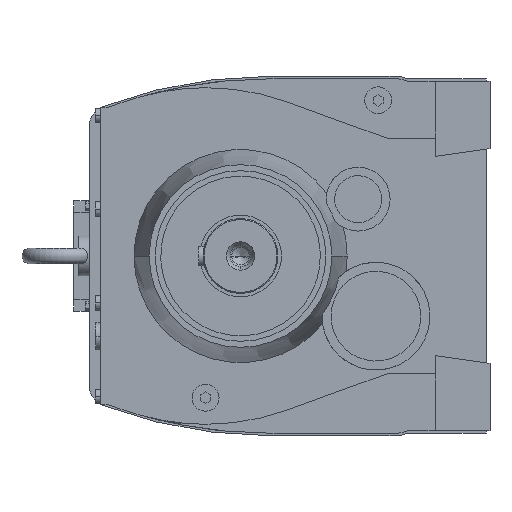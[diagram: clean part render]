
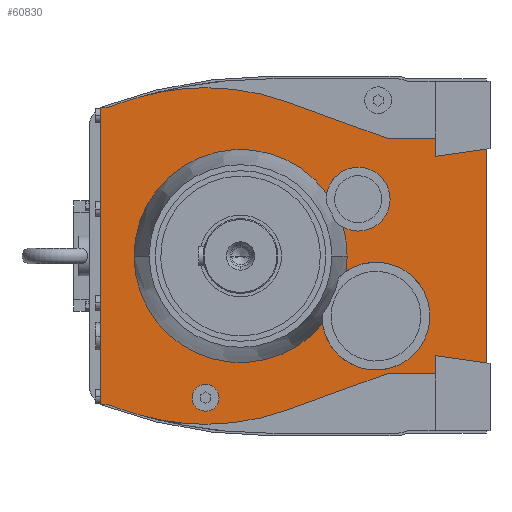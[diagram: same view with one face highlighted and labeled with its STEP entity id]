
A CAD part, left-side view. The second image highlights one B-rep face of the part: STEP entity #60830.
In plain terms, the highlighted planar face has unit normal (-1, 0, 0).
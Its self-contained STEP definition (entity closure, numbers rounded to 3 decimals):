
#10880=CARTESIAN_POINT('',(99.,106.752,0.));
#10890=VERTEX_POINT('',#10880);
#10920=CARTESIAN_POINT('',(99.,0.,0.));
#10930=DIRECTION('',(1.,0.,0.));
#10940=DIRECTION('',(0.,-1.,0.));
#10950=AXIS2_PLACEMENT_3D('',#10920,#10930,#10940);
#10960=CIRCLE('',#10950,106.752);
#10970=CARTESIAN_POINT('',(99.,-86.409,62.686));
#10980=VERTEX_POINT('',#10970);
#10990=EDGE_CURVE('',#10890,#10980,#10960,.T.);
#12810=CARTESIAN_POINT('',(99.,-102.81,28.741));
#12820=VERTEX_POINT('',#12810);
#12850=CARTESIAN_POINT('',(99.,0.,0.));
#12860=DIRECTION('',(1.,0.,0.));
#12870=DIRECTION('',(0.,-1.,0.));
#12880=AXIS2_PLACEMENT_3D('',#12850,#12860,#12870);
#12890=CIRCLE('',#12880,106.752);
#12900=CARTESIAN_POINT('',(99.,-106.752,0.));
#12910=VERTEX_POINT('',#12900);
#12920=EDGE_CURVE('',#12820,#12910,#12890,.T.);
#18500=CARTESIAN_POINT('',(99.,-246.,-107.086));
#18510=VERTEX_POINT('',#18500);
#19070=CARTESIAN_POINT('',(99.,-195.,-99.919));
#19080=VERTEX_POINT('',#19070);
#19110=CARTESIAN_POINT('',(99.,0.,-72.513));
#19120=DIRECTION('',(0.,-0.99,-0.139));
#19130=VECTOR('',#19120,1.);
#19140=LINE('',#19110,#19130);
#19150=EDGE_CURVE('',#19080,#18510,#19140,.T.);
#19800=CARTESIAN_POINT('',(99.,-246.,0.));
#19810=DIRECTION('',(0.,0.,-1.));
#19820=VECTOR('',#19810,1.);
#19830=LINE('',#19800,#19820);
#19840=CARTESIAN_POINT('',(99.,-246.,107.086));
#19850=VERTEX_POINT('',#19840);
#19860=EDGE_CURVE('',#19850,#18510,#19830,.T.);
#23890=CARTESIAN_POINT('',(99.,34.672,168.654));
#23900=VERTEX_POINT('',#23890);
#23930=CARTESIAN_POINT('',(99.,34.672,-71.346));
#23940=DIRECTION('',(-1.,0.,0.));
#23950=DIRECTION('',(0.,0.,1.));
#23960=AXIS2_PLACEMENT_3D('',#23930,#23940,#23950);
#23970=CIRCLE('',#23960,240.);
#23980=CARTESIAN_POINT('',(99.,100.591,159.424));
#23990=VERTEX_POINT('',#23980);
#24000=EDGE_CURVE('',#23900,#23990,#23970,.T.);
#29410=CARTESIAN_POINT('',(99.,140.5,-149.));
#29420=VERTEX_POINT('',#29410);
#29590=CARTESIAN_POINT('',(99.,140.5,149.));
#29600=VERTEX_POINT('',#29590);
#29630=CARTESIAN_POINT('',(99.,140.5,0.));
#29640=DIRECTION('',(0.,0.,1.));
#29650=VECTOR('',#29640,1.);
#29660=LINE('',#29630,#29650);
#29670=EDGE_CURVE('',#29420,#29600,#29660,.T.);
#32210=CARTESIAN_POINT('',(99.,0.,-149.));
#32220=DIRECTION('',(0.,1.,0.));
#32230=VECTOR('',#32220,1.);
#32240=LINE('',#32210,#32230);
#32250=CARTESIAN_POINT('',(99.,132.5,-149.));
#32260=VERTEX_POINT('',#32250);
#32270=EDGE_CURVE('',#32260,#29420,#32240,.T.);
#34790=CARTESIAN_POINT('',(99.,-195.,-118.));
#34800=VERTEX_POINT('',#34790);
#34950=CARTESIAN_POINT('',(99.,-146.818,-118.));
#34960=VERTEX_POINT('',#34950);
#34990=CARTESIAN_POINT('',(99.,0.,-118.));
#35000=DIRECTION('',(0.,-1.,0.));
#35010=VECTOR('',#35000,1.);
#35020=LINE('',#34990,#35010);
#35030=EDGE_CURVE('',#34960,#34800,#35020,.T.);
#37060=CARTESIAN_POINT('',(99.,-195.,0.));
#37070=DIRECTION('',(0.,0.,-1.));
#37080=VECTOR('',#37070,1.);
#37090=LINE('',#37060,#37080);
#37100=EDGE_CURVE('',#19080,#34800,#37090,.T.);
#37550=CARTESIAN_POINT('',(99.,34.672,-168.654));
#37560=VERTEX_POINT('',#37550);
#37590=CARTESIAN_POINT('',(99.,34.672,71.346));
#37600=DIRECTION('',(1.,0.,0.));
#37610=DIRECTION('',(0.,0.,-1.));
#37620=AXIS2_PLACEMENT_3D('',#37590,#37600,#37610);
#37630=CIRCLE('',#37620,240.);
#37640=CARTESIAN_POINT('',(99.,-47.412,-154.181));
#37650=VERTEX_POINT('',#37640);
#37660=EDGE_CURVE('',#37650,#37560,#37630,.T.);
#39890=CARTESIAN_POINT('',(99.,0.,72.513));
#39900=DIRECTION('',(0.,0.99,-0.139));
#39910=VECTOR('',#39900,1.);
#39920=LINE('',#39890,#39910);
#39930=CARTESIAN_POINT('',(99.,-195.,99.919));
#39940=VERTEX_POINT('',#39930);
#39950=EDGE_CURVE('',#19850,#39940,#39920,.T.);
#43040=CARTESIAN_POINT('',(99.,132.5,-149.064));
#43050=VERTEX_POINT('',#43040);
#43080=CARTESIAN_POINT('',(99.,-28.5,292.5));
#43090=DIRECTION('',(-1.,0.,0.));
#43100=DIRECTION('',(0.,1.,0.));
#43110=AXIS2_PLACEMENT_3D('',#43080,#43090,#43100);
#43120=CIRCLE('',#43110,470.);
#43130=CARTESIAN_POINT('',(99.,100.591,-159.424));
#43140=VERTEX_POINT('',#43130);
#43150=EDGE_CURVE('',#43050,#43140,#43120,.T.);
#47310=CARTESIAN_POINT('',(99.,-117.893,56.964));
#47320=DIRECTION('',(1.,0.,0.));
#47330=DIRECTION('',(0.,0.15,0.989));
#47340=AXIS2_PLACEMENT_3D('',#47310,#47320,#47330);
#47350=CIRCLE('',#47340,32.);
#47360=CARTESIAN_POINT('',(99.,-113.086,88.601));
#47370=VERTEX_POINT('',#47360);
#47380=EDGE_CURVE('',#10980,#47370,#47350,.T.);
#47830=CARTESIAN_POINT('',(99.,132.5,149.064));
#47840=VERTEX_POINT('',#47830);
#47870=CARTESIAN_POINT('',(99.,132.5,0.));
#47880=DIRECTION('',(0.,0.,1.));
#47890=VECTOR('',#47880,1.);
#47900=LINE('',#47870,#47890);
#47910=CARTESIAN_POINT('',(99.,132.5,149.));
#47920=VERTEX_POINT('',#47910);
#47930=EDGE_CURVE('',#47920,#47840,#47900,.T.);
#48030=EDGE_CURVE('',#43050,#32260,#47900,.T.);
#48140=CARTESIAN_POINT('',(99.,0.,171.437));
#48150=DIRECTION('',(0.,-0.94,-0.342));
#48160=VECTOR('',#48150,1.);
#48170=LINE('',#48140,#48160);
#48180=CARTESIAN_POINT('',(99.,-47.412,154.181));
#48190=VERTEX_POINT('',#48180);
#48200=CARTESIAN_POINT('',(99.,-146.818,118.));
#48210=VERTEX_POINT('',#48200);
#48220=EDGE_CURVE('',#48190,#48210,#48170,.T.);
#52690=CARTESIAN_POINT('',(99.,-185.06,-82.214));
#52700=VERTEX_POINT('',#52690);
#52730=CARTESIAN_POINT('',(99.,-135.711,-60.29));
#52740=DIRECTION('',(1.,0.,0.));
#52750=DIRECTION('',(0.,0.914,0.406));
#52760=AXIS2_PLACEMENT_3D('',#52730,#52740,#52750);
#52770=CIRCLE('',#52760,54.);
#52780=CARTESIAN_POINT('',(99.,-82.268,-68.03));
#52790=VERTEX_POINT('',#52780);
#52800=EDGE_CURVE('',#52700,#52790,#52770,.T.);
#54490=CARTESIAN_POINT('',(99.,0.,-171.437));
#54500=DIRECTION('',(0.,0.94,-0.342));
#54510=VECTOR('',#54500,1.);
#54520=LINE('',#54490,#54510);
#54530=EDGE_CURVE('',#34960,#37650,#54520,.T.);
#54730=CARTESIAN_POINT('',(99.,0.,149.));
#54740=DIRECTION('',(0.,-1.,0.));
#54750=VECTOR('',#54740,1.);
#54760=LINE('',#54730,#54750);
#54770=EDGE_CURVE('',#29600,#47920,#54760,.T.);
#55060=CARTESIAN_POINT('',(99.,-28.5,-292.5));
#55070=DIRECTION('',(1.,0.,0.));
#55080=DIRECTION('',(0.,1.,0.));
#55090=AXIS2_PLACEMENT_3D('',#55060,#55070,#55080);
#55100=CIRCLE('',#55090,470.);
#55110=EDGE_CURVE('',#47840,#23990,#55100,.T.);
#59310=CARTESIAN_POINT('',(99.,0.,118.));
#59320=DIRECTION('',(0.,1.,0.));
#59330=VECTOR('',#59320,1.);
#59340=LINE('',#59310,#59330);
#59350=CARTESIAN_POINT('',(99.,-195.,118.));
#59360=VERTEX_POINT('',#59350);
#59370=EDGE_CURVE('',#59360,#48210,#59340,.T.);
#59880=CARTESIAN_POINT('',(99.,-195.,0.));
#59890=DIRECTION('',(0.,0.,-1.));
#59900=VECTOR('',#59890,1.);
#59910=LINE('',#59880,#59900);
#59920=EDGE_CURVE('',#59360,#39940,#59910,.T.);
#60190=CARTESIAN_POINT('',(99.,-74.035,-91.089));
#60200=DIRECTION('',(-1.,0.,0.));
#60210=DIRECTION('',(0.,-1.,0.));
#60220=AXIS2_PLACEMENT_3D('',#60190,#60200,#60210);
#60230=PLANE('',#60220);
#60240=EDGE_CURVE('',#52790,#10890,#10960,.T.);
#60250=ORIENTED_EDGE('',*,*,#60240,.T.);
#60260=ORIENTED_EDGE('',*,*,#52800,.T.);
#60270=CARTESIAN_POINT('',(99.,-105.629,-15.445));
#60280=VERTEX_POINT('',#60270);
#60290=EDGE_CURVE('',#60280,#52700,#52770,.T.);
#60300=ORIENTED_EDGE('',*,*,#60290,.T.);
#60310=EDGE_CURVE('',#12910,#60280,#12890,.T.);
#60320=ORIENTED_EDGE('',*,*,#60310,.T.);
#60330=ORIENTED_EDGE('',*,*,#12920,.T.);
#60340=CARTESIAN_POINT('',(99.,-122.7,25.327));
#60350=VERTEX_POINT('',#60340);
#60360=EDGE_CURVE('',#60350,#12820,#47350,.T.);
#60370=ORIENTED_EDGE('',*,*,#60360,.T.);
#60380=EDGE_CURVE('',#47370,#60350,#47350,.T.);
#60390=ORIENTED_EDGE('',*,*,#60380,.T.);
#60400=ORIENTED_EDGE('',*,*,#47380,.T.);
#60410=ORIENTED_EDGE('',*,*,#10990,.T.);
#60420=EDGE_LOOP('',(#60410,#60400,#60390,#60370,#60330,#60320,#60300,#60260,#60250));
#60430=FACE_BOUND('',#60420,.T.);
#60440=ORIENTED_EDGE('',*,*,#54770,.F.);
#60450=ORIENTED_EDGE('',*,*,#47930,.F.);
#60460=ORIENTED_EDGE('',*,*,#55110,.F.);
#60470=ORIENTED_EDGE('',*,*,#24000,.T.);
#60480=EDGE_CURVE('',#48190,#23900,#23970,.T.);
#60490=ORIENTED_EDGE('',*,*,#60480,.T.);
#60500=ORIENTED_EDGE('',*,*,#48220,.F.);
#60510=ORIENTED_EDGE('',*,*,#59370,.T.);
#60520=ORIENTED_EDGE('',*,*,#59920,.F.);
#60530=ORIENTED_EDGE('',*,*,#39950,.T.);
#60540=ORIENTED_EDGE('',*,*,#19860,.F.);
#60550=ORIENTED_EDGE('',*,*,#19150,.T.);
#60560=ORIENTED_EDGE('',*,*,#37100,.F.);
#60570=ORIENTED_EDGE('',*,*,#35030,.T.);
#60580=ORIENTED_EDGE('',*,*,#54530,.F.);
#60590=ORIENTED_EDGE('',*,*,#37660,.F.);
#60600=EDGE_CURVE('',#37560,#43140,#37630,.T.);
#60610=ORIENTED_EDGE('',*,*,#60600,.F.);
#60620=ORIENTED_EDGE('',*,*,#43150,.T.);
#60630=ORIENTED_EDGE('',*,*,#48030,.F.);
#60640=ORIENTED_EDGE('',*,*,#32270,.F.);
#60650=ORIENTED_EDGE('',*,*,#29670,.F.);
#60660=EDGE_LOOP('',(#60650,#60640,#60630,#60620,#60610,#60590,#60580,#60570,#60560,#60550,#60540,#60530,#60520,#60510,#60500,#60490,#60470,#60460,#60450,#60440));
#60670=FACE_OUTER_BOUND('',#60660,.T.);
#60680=CARTESIAN_POINT('',(99.,35.,-142.));
#60690=DIRECTION('',(-1.,0.,0.));
#60700=DIRECTION('',(0.,1.,0.));
#60710=AXIS2_PLACEMENT_3D('',#60680,#60690,#60700);
#60720=CIRCLE('',#60710,13.5);
#60730=CARTESIAN_POINT('',(99.,48.5,-142.));
#60740=VERTEX_POINT('',#60730);
#60750=CARTESIAN_POINT('',(99.,21.5,-142.));
#60760=VERTEX_POINT('',#60750);
#60770=EDGE_CURVE('',#60740,#60760,#60720,.T.);
#60780=ORIENTED_EDGE('',*,*,#60770,.F.);
#60790=EDGE_CURVE('',#60760,#60740,#60720,.T.);
#60800=ORIENTED_EDGE('',*,*,#60790,.F.);
#60810=EDGE_LOOP('',(#60800,#60780));
#60820=FACE_BOUND('',#60810,.T.);
#60830=ADVANCED_FACE('',(#60430,#60670,#60820),#60230,.T.);
